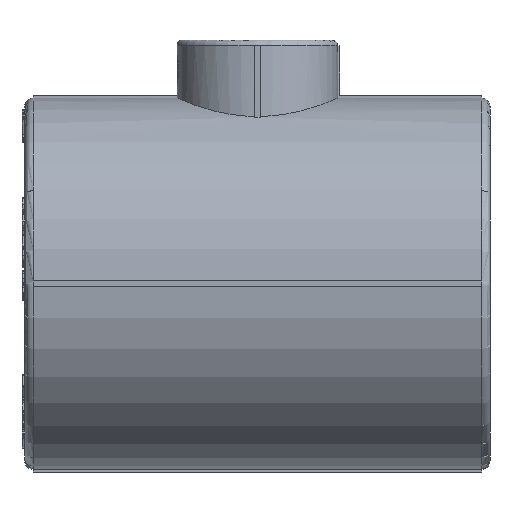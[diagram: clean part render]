
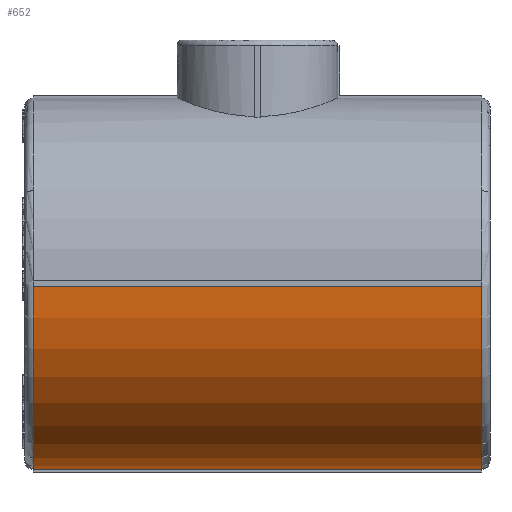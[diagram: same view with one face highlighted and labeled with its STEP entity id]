
A CAD part, left-side view. The second image highlights one B-rep face of the part: STEP entity #652.
In plain terms, the highlighted cylindrical face has radius 33.5 mm (diameter 67 mm), a partial arc.
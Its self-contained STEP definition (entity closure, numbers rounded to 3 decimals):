
#652=ADVANCED_FACE('',(#5071),#5073,.T.);
#5071=FACE_BOUND('',#5072,.T.);
#5072=EDGE_LOOP('',(#12910,#12911,#12912,#12913));
#5073=CYLINDRICAL_SURFACE('',#5074,33.5);
#5074=AXIS2_PLACEMENT_3D('',#5075,#5076,#5077);
#5075=CARTESIAN_POINT('',(0.,-42.,0.));
#5076=DIRECTION('',(0.,1.,0.));
#5077=DIRECTION('',(-1.,0.,0.));
#12910=ORIENTED_EDGE('',*,*,#18321,.F.);
#12911=ORIENTED_EDGE('',*,*,#18322,.T.);
#12912=ORIENTED_EDGE('',*,*,#18323,.F.);
#12913=ORIENTED_EDGE('',*,*,#18284,.F.);
#18284=EDGE_CURVE('',#22504,#22506,#22507,.T.);
#18321=EDGE_CURVE('',#22573,#22504,#22574,.T.);
#18322=EDGE_CURVE('',#22573,#22575,#22576,.T.);
#18323=EDGE_CURVE('',#22506,#22575,#22577,.F.);
#22504=VERTEX_POINT('',#31025);
#22506=VERTEX_POINT('',#31030);
#22507=CIRCLE('',#31031,33.5);
#22573=VERTEX_POINT('',#31408);
#22574=LINE('',#31409,#31410);
#22575=VERTEX_POINT('',#31412);
#22576=CIRCLE('',#31413,33.5);
#22577=LINE('',#31417,#31418);
#31025=CARTESIAN_POINT('',(-0.5,40.5,-33.496));
#31030=CARTESIAN_POINT('',(-33.496,40.5,-0.5));
#31031=AXIS2_PLACEMENT_3D('',#31032,#31033,#31034);
#31032=CARTESIAN_POINT('',(0.,40.5,0.));
#31033=DIRECTION('',(0.,1.,0.));
#31034=DIRECTION('',(-0.015,0.,-1.));
#31408=CARTESIAN_POINT('',(-0.5,-40.5,-33.496));
#31409=CARTESIAN_POINT('',(-0.5,-40.5,-33.496));
#31410=VECTOR('',#31411,1.);
#31411=DIRECTION('',(0.,1.,0.));
#31412=CARTESIAN_POINT('',(-33.496,-40.5,-0.5));
#31413=AXIS2_PLACEMENT_3D('',#31414,#31415,#31416);
#31414=CARTESIAN_POINT('',(0.,-40.5,0.));
#31415=DIRECTION('',(0.,1.,0.));
#31416=DIRECTION('',(-0.015,0.,-1.));
#31417=CARTESIAN_POINT('',(-33.496,-40.5,-0.5));
#31418=VECTOR('',#31419,1.);
#31419=DIRECTION('',(0.,1.,0.));
